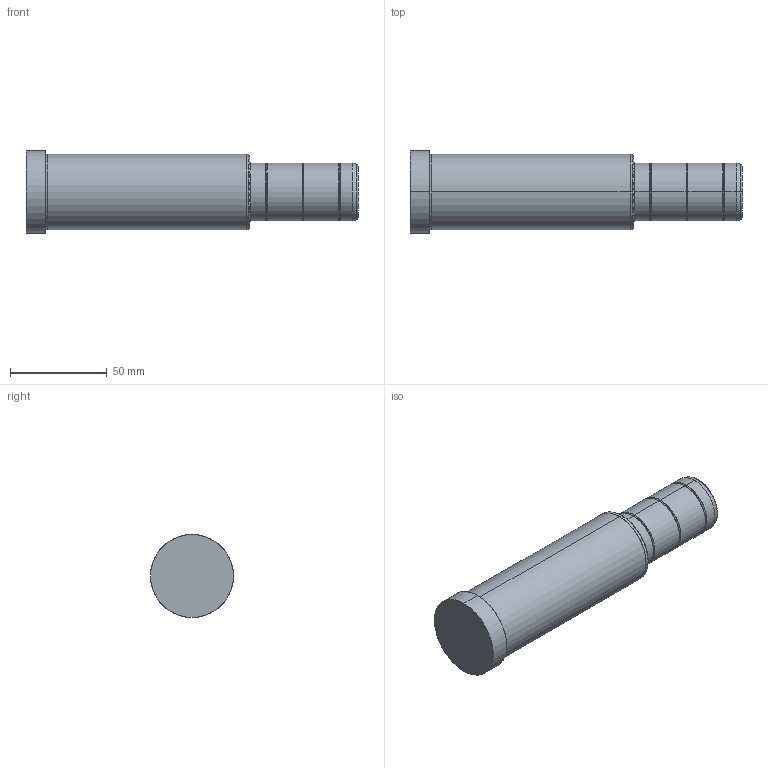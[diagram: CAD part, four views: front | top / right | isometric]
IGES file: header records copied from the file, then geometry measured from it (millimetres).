
Start section: SolidWorks IGES file using analytic representation for surfaces
Global section: file name: C:\Documents and Settings\kalite-mail\Desktop\IGS\D02\30\D02 - 30x116x56.IGS; native system: SolidWorks 2008; preprocessor: SolidWorks 2008; author: kalite-mail; date: 080617.094358; units: millimetre
Bounding box: 172 x 43 x 43 mm (x, y, z)
Surface area: 22533.1 mm2 (no closed solid volume)
Topology: 0 solids, 0 shells, 42 faces, 752 edges, 752 vertices
Faces by surface type: bspline 22, revolution 20
